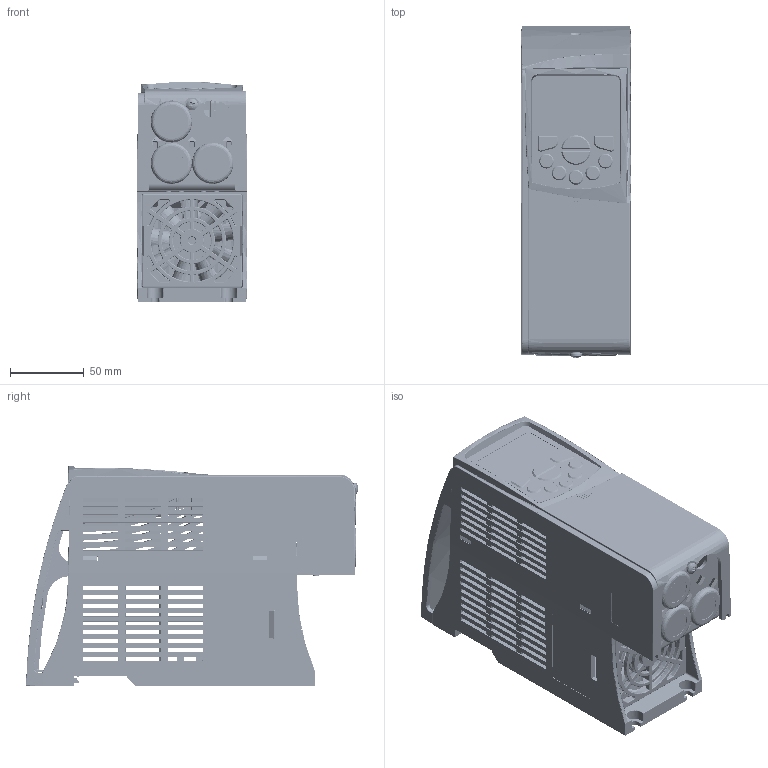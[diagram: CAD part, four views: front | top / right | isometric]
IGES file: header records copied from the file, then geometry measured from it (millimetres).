
Start section: SolidWorks IGES file using analytic representation for surfaces
Global section: file name: C:\SAP_SW\Mec A\CFW500 Mec A NEMA 1.igs; native system: SolidWorks 2014; preprocessor: SolidWorks 2014; author: schuenke; date: 150522.073922; units: millimetre
Bounding box: 75.22 x 225 x 149.47 mm (x, y, z)
Surface area: 363181.5 mm2 (no closed solid volume)
Topology: 0 solids, 0 shells, 10931 faces, 91782 edges, 91607 vertices
Faces by surface type: bspline 8139, revolution 2792
